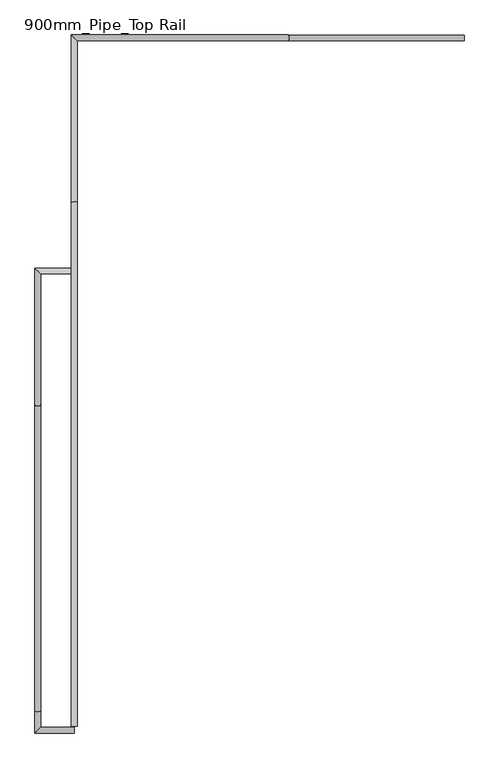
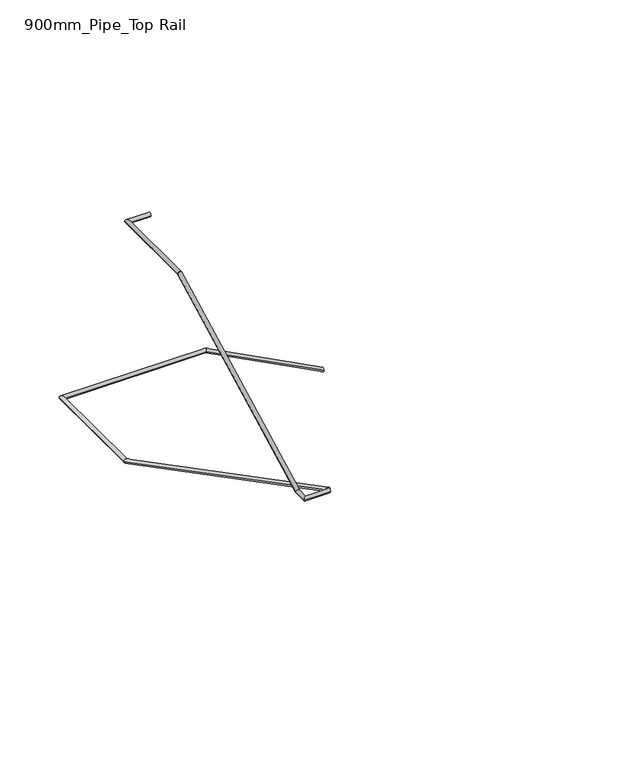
"""IFC4 building model written with IfcOpenShell, lengths in millimetres: railing geometry, 900mm_Pipe_Top Rail."""

from ifc_helpers import new_model, si_unit, frame, origin, place, context, project, spatial, circle_curve, ellipse_curve, source, transform, mapped, element, save
from ifc_brep_helpers import plane_surface, cylinder_surface, advanced_brep


def railing_900mm_pipe_top_rail_c506623c(model_context):
    return source(origin(), model_context, "Body", "AdvancedBrep", [
        advanced_brep(
        [(-11965.2146087, 9069.8934136, 11046.25), (-11965.2146087, 9109.8934136, 11046.25), (-12195.3216429, 9109.8934136, 11046.25), (-12235.3216429, 9069.8934136, 11046.25), (-12195.3216429, 12219.8932827, 12140.0), (-12235.3216429, 12259.8932827, 12140.0), (-12235.3216429, 11319.7922565, 12140.0), (-12195.3216429, 11319.7922565, 12140.0), (-11990.2146087, 12259.8932827, 12140.0), (-11990.2146087, 12219.8932827, 12140.0), (-12195.3216429, 9219.7922565, 11046.25), (-12235.3216429, 9219.7922565, 11046.25)],
        [
            (0, 1, circle_curve(frame((-11965.2146087, 9089.8934136, 11046.25), z_axis=(1.0, 0.0, 0.0), x_axis=(0.0, 1.0, 0.0)), 20.0)),
            (1, 0, circle_curve(frame((-11965.2146087, 9089.8934136, 11046.25), z_axis=(1.0, 0.0, 0.0), x_axis=(0.0, 1.0, 0.0)), 20.0)),
            (2, 3, ellipse_curve(frame((-12215.3216429, 9089.8934136, 11046.25), z_axis=(0.7071067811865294, -0.7071067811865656, 0.0), x_axis=(-0.7071067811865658, -0.7071067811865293, 0.0)), 28.2842712, 20.0)),
            (3, 0),
            (1, 2),
            (3, 2, ellipse_curve(frame((-12215.3216429, 9089.8934136, 11046.25), z_axis=(0.7071067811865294, -0.7071067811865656, 0.0), x_axis=(-0.7071067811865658, -0.7071067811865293, 0.0)), 28.2842712, 20.0)),
            (4, 5, ellipse_curve(frame((-12215.3216429, 12239.8932827, 12140.0), z_axis=(-0.7071067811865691, -0.7071067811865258, 0.0), x_axis=(-0.7071067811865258, 0.7071067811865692, 0.0)), 28.2842712, 20.0)),
            (5, 6),
            (6, 7, ellipse_curve(frame((-12215.3216429, 11319.7922565, 12140.0), z_axis=(0.0, 0.9713171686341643, 0.2377876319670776), x_axis=(0.0, 0.2377876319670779, -0.9713171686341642)), 20.5905966, 20.0)),
            (7, 4),
            (5, 4, ellipse_curve(frame((-12215.3216429, 12239.8932827, 12140.0), z_axis=(-0.7071067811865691, -0.7071067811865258, 0.0), x_axis=(-0.7071067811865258, 0.7071067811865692, 0.0)), 28.2842712, 20.0)),
            (7, 6, ellipse_curve(frame((-12215.3216429, 11319.7922565, 12140.0), z_axis=(0.0, 0.9713171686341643, 0.2377876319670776), x_axis=(0.0, 0.2377876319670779, -0.9713171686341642)), 20.5905966, 20.0)),
            (8, 9, circle_curve(frame((-11990.2146087, 12239.8932827, 12140.0), z_axis=(1.0, 0.0, 0.0), x_axis=(0.0, -1.0, 0.0)), 20.0)),
            (9, 8, circle_curve(frame((-11990.2146087, 12239.8932827, 12140.0), z_axis=(1.0, 0.0, 0.0), x_axis=(0.0, -1.0, 0.0)), 20.0)),
            (8, 5),
            (4, 9),
            (10, 11, ellipse_curve(frame((-12215.3216429, 9219.7922565, 11046.25), z_axis=(0.0, -0.9713171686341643, -0.23778763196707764), x_axis=(0.0, 0.23778763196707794, -0.9713171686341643)), 20.5905966, 20.0)),
            (11, 3),
            (2, 10),
            (11, 10, ellipse_curve(frame((-12215.3216429, 9219.7922565, 11046.25), z_axis=(0.0, -0.9713171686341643, -0.23778763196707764), x_axis=(0.0, 0.23778763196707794, -0.9713171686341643)), 20.5905966, 20.0)),
            (6, 11),
            (10, 7),
        ],
        [
            plane_surface(frame((-11965.2146087, 9089.8934136, 11066.25), z_axis=(1.0, 0.0, 0.0), x_axis=(0.0, 1.0, 0.0))),
            cylinder_surface(frame((-12215.3216429, 9089.8934136, 11046.25), z_axis=(-1.0, 0.0, 0.0), x_axis=(0.0, 1.0, 0.0)), 20.0),
            cylinder_surface(frame((-12215.3216429, 12239.8932827, 12140.0), z_axis=(0.0, 1.0, 0.0), x_axis=(1.0, 0.0, 0.0)), 20.0),
            plane_surface(frame((-11990.2146087, 12239.8932827, 12160.0), z_axis=(1.0, 0.0, 0.0), x_axis=(0.0, -1.0, 0.0))),
            cylinder_surface(frame((-11990.2146087, 12239.8932827, 12140.0), z_axis=(1.0, 0.0, 0.0), x_axis=(0.0, -1.0, 0.0)), 20.0),
            cylinder_surface(frame((-12215.3216429, 9214.8960673, 11046.25), z_axis=(0.0, 1.0, 0.0), x_axis=(1.0, 0.0, 0.0)), 20.0),
            cylinder_surface(frame((-12215.3216429, 11324.1347557, 12142.2617183), z_axis=(0.0, 0.8869140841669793, 0.46193441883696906), x_axis=(1.0, 0.0, 0.0)), 20.0),
        ],
        [
            (0, [[1, 2]]),
            (1, [[3, 4, -2, 5]]),
            (1, [[6, -5, -1, -4]]),
            (2, [[7, 8, 9, 10]]),
            (2, [[11, -10, 12, -8]]),
            (3, [[13, 14]]),
            (4, [[-13, 15, -7, 16]]),
            (4, [[-14, -16, -11, -15]]),
            (5, [[17, 18, -3, 19]]),
            (5, [[20, -19, -6, -18]]),
            (6, [[-9, 21, -17, 22]]),
            (6, [[-12, -22, -20, -21]]),
        ],
    ),
        advanced_brep(
        [(-11945.2146087, 9114.8934136, 11043.6999015), (-11985.2146087, 9114.8934136, 11043.6999015), (-11945.2146087, 12709.9972244, 9171.25), (-11985.2146087, 12709.9972244, 9171.25), (-9290.7914923, 13819.8960687, 8543.6999015), (-9290.7914923, 13859.8960687, 8543.6999015), (-10495.6876815, 13859.8960687, 9171.25), (-10495.6876815, 13819.8960687, 9171.25), (-11985.2146087, 13859.8960687, 9171.25), (-11945.2146087, 13819.8960687, 9171.25)],
        [
            (0, 1, ellipse_curve(frame((-11965.2146087, 9114.8934136, 11043.6999015), z_axis=(0.0, -1.0, 0.0), x_axis=(0.0, 0.0, 0.9999999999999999)), 22.5500985, 20.0)),
            (1, 0, ellipse_curve(frame((-11965.2146087, 9114.8934136, 11043.6999015), z_axis=(0.0, -1.0, 0.0), x_axis=(0.0, 0.0, 0.9999999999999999)), 22.5500985, 20.0)),
            (0, 2),
            (2, 3, ellipse_curve(frame((-11965.2146087, 12709.9972244, 9171.25), z_axis=(0.0, -0.9713171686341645, 0.23778763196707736), x_axis=(0.0, 0.23778763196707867, 0.9713171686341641)), 20.5905966, 20.0)),
            (3, 1),
            (3, 2, ellipse_curve(frame((-11965.2146087, 12709.9972244, 9171.25), z_axis=(0.0, -0.9713171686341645, 0.23778763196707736), x_axis=(0.0, 0.23778763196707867, 0.9713171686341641)), 20.5905966, 20.0)),
            (4, 5, ellipse_curve(frame((-9290.7914923, 13839.8960687, 8543.6999015), z_axis=(1.0, 0.0, 0.0), x_axis=(0.0, 0.0, 1.0)), 22.5500985, 20.0)),
            (5, 4, ellipse_curve(frame((-9290.7914923, 13839.8960687, 8543.6999015), z_axis=(1.0, 0.0, 0.0), x_axis=(0.0, 0.0, 1.0)), 22.5500985, 20.0)),
            (6, 7, ellipse_curve(frame((-10495.6876815, 13839.8960687, 9171.25), z_axis=(0.9713171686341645, 0.0, -0.2377876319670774), x_axis=(0.23778763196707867, 0.0, 0.9713171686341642)), 20.5905966, 20.0)),
            (7, 4),
            (5, 6),
            (7, 6, ellipse_curve(frame((-10495.6876815, 13839.8960687, 9171.25), z_axis=(0.9713171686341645, 0.0, -0.2377876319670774), x_axis=(0.23778763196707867, 0.0, 0.9713171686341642)), 20.5905966, 20.0)),
            (8, 9, ellipse_curve(frame((-11965.2146087, 13839.8960687, 9171.25), z_axis=(0.707106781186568, 0.707106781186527, 0.0), x_axis=(-0.707106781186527, 0.707106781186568, 0.0)), 28.2842712, 20.0)),
            (9, 7),
            (6, 8),
            (9, 8, ellipse_curve(frame((-11965.2146087, 13839.8960687, 9171.25), z_axis=(0.707106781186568, 0.707106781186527, 0.0), x_axis=(-0.707106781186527, 0.707106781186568, 0.0)), 28.2842712, 20.0)),
            (2, 9),
            (8, 3),
        ],
        [
            plane_surface(frame((-11965.2146087, 9114.8934136, 11066.25), z_axis=(0.0, -1.0, 0.0), x_axis=(0.0, 0.0, 1.0))),
            cylinder_surface(frame((-11965.2146087, 9105.6547253, 11048.5117183), z_axis=(0.0, -0.8869140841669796, 0.46193441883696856), x_axis=(-1.0, 0.0, 0.0)), 20.0),
            plane_surface(frame((-9290.7914923, 13839.8960687, 8566.25), z_axis=(1.0, 0.0, 0.0), x_axis=(0.0, 1.0, 0.0))),
            cylinder_surface(frame((-10500.0301806, 13839.8960687, 9173.5117183), z_axis=(-0.8869140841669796, 0.0, 0.4619344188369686), x_axis=(0.0, 1.0, 0.0)), 20.0),
            cylinder_surface(frame((-11965.2146087, 13839.8960687, 9171.25), z_axis=(-1.0, 0.0, 0.0), x_axis=(0.0, 1.0, 0.0)), 20.0),
            cylinder_surface(frame((-11965.2146087, 12714.8934136, 9171.25), z_axis=(0.0, -1.0, 0.0), x_axis=(-1.0, 0.0, 0.0)), 20.0),
        ],
        [
            (0, [[1, 2]]),
            (1, [[-1, 3, 4, 5]]),
            (1, [[-2, -5, 6, -3]]),
            (2, [[7, 8]]),
            (3, [[9, 10, -8, 11]]),
            (3, [[12, -11, -7, -10]]),
            (4, [[13, 14, -9, 15]]),
            (4, [[16, -15, -12, -14]]),
            (5, [[-4, 17, -13, 18]]),
            (5, [[-6, -18, -16, -17]]),
        ],
    ),
    ])


if __name__ == "__main__":
    model = new_model("IFC4")
    model_context = context("Model", 3, world=origin())
    ifc_project = project(units=[si_unit("LENGTHUNIT", "METRE", prefix="MILLI")], contexts=[model_context])
    site = spatial("IfcSite", under=ifc_project)
    building = spatial("IfcBuilding", under=site)
    placement = place(None, origin())
    railing_900mm_pipe_top_rail_shape = railing_900mm_pipe_top_rail_c506623c(model_context)
    element("IfcRailing", 1, ObjectType="900mm_Pipe_Top Rail", at=placement, inside=building, context=model_context, shape_type="MappedRepresentation", body=[
        mapped(railing_900mm_pipe_top_rail_shape, transform((0.0, 0.0, 0.0), x_axis=(1.0, 0.0, 0.0), y_axis=(0.0, 1.0, 0.0), z_axis=(0.0, 0.0, 1.0))),
    ])
    save(model, "model.ifc")
